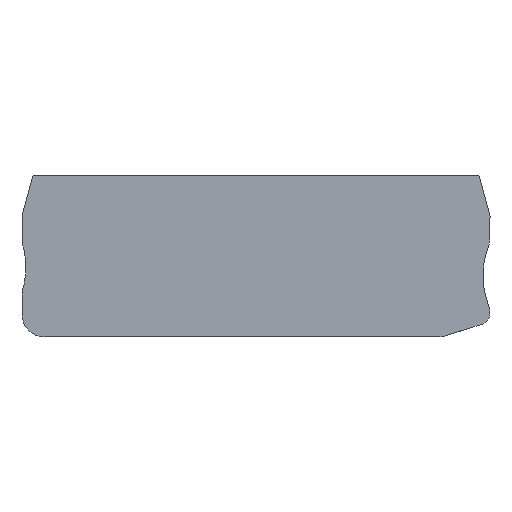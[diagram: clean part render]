
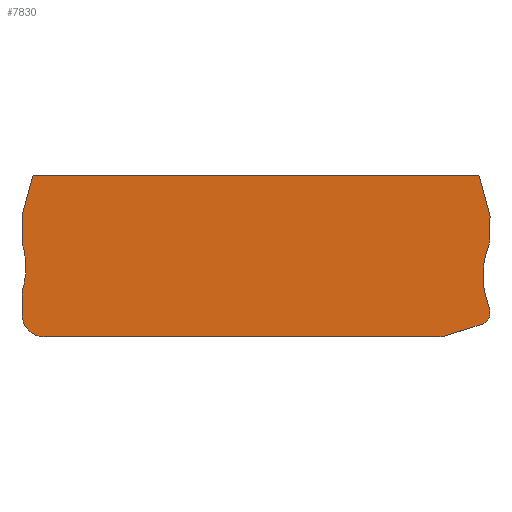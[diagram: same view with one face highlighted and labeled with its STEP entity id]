
A CAD part, top view. The second image highlights one B-rep face of the part: STEP entity #7830.
In plain terms, the highlighted planar face has unit normal (0, 0, 1).
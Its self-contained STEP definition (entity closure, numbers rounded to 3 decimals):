
#200=CARTESIAN_POINT('',(-34.168,-16.531,55.37));
#210=VERTEX_POINT('',#200);
#240=CARTESIAN_POINT('',(-34.168,-12.13,55.37));
#250=DIRECTION('',(0.,-1.,0.));
#260=VECTOR('',#250,1.);
#270=LINE('',#240,#260);
#280=CARTESIAN_POINT('',(-34.168,-20.903,55.37));
#290=VERTEX_POINT('',#280);
#300=EDGE_CURVE('',#210,#290,#270,.T.);
#530=CARTESIAN_POINT('',(40.84,-36.2,55.37));
#540=DIRECTION('',(0.,0.,-1.));
#550=DIRECTION('',(-1.,0.,0.));
#560=AXIS2_PLACEMENT_3D('',#530,#540,#550);
#570=CIRCLE('',#560,2.);
#580=CARTESIAN_POINT('',(41.435,-38.11,55.37));
#590=VERTEX_POINT('',#580);
#600=CARTESIAN_POINT('',(40.84,-38.2,55.37));
#610=VERTEX_POINT('',#600);
#620=EDGE_CURVE('',#590,#610,#570,.T.);
#1160=CARTESIAN_POINT('',(49.832,-20.796,55.37));
#1170=VERTEX_POINT('',#1160);
#1200=CARTESIAN_POINT('',(49.832,-12.13,55.37));
#1210=DIRECTION('',(0.,1.,0.));
#1220=VECTOR('',#1210,1.);
#1230=LINE('',#1200,#1220);
#1240=CARTESIAN_POINT('',(49.832,-16.531,55.37));
#1250=VERTEX_POINT('',#1240);
#1260=EDGE_CURVE('',#1170,#1250,#1230,.T.);
#1490=CARTESIAN_POINT('',(47.832,-33.604,55.37));
#1500=DIRECTION('',(0.,0.,1.));
#1510=DIRECTION('',(1.,0.,0.));
#1520=AXIS2_PLACEMENT_3D('',#1490,#1500,#1510);
#1530=CIRCLE('',#1520,2.);
#1540=CARTESIAN_POINT('',(49.832,-33.604,55.37));
#1550=VERTEX_POINT('',#1540);
#1560=CARTESIAN_POINT('',(49.685,-32.85,55.37));
#1570=VERTEX_POINT('',#1560);
#1580=EDGE_CURVE('',#1550,#1570,#1530,.T.);
#1980=CARTESIAN_POINT('',(47.832,-34.022,55.37));
#1990=DIRECTION('',(0.,0.,1.));
#2000=DIRECTION('',(1.,0.,0.));
#2010=AXIS2_PLACEMENT_3D('',#1980,#1990,#2000);
#2020=CIRCLE('',#2010,2.);
#2030=CARTESIAN_POINT('',(48.427,-35.932,55.37));
#2040=VERTEX_POINT('',#2030);
#2050=CARTESIAN_POINT('',(49.832,-34.022,55.37));
#2060=VERTEX_POINT('',#2050);
#2070=EDGE_CURVE('',#2040,#2060,#2020,.T.);
#4110=CARTESIAN_POINT('',(47.488,-9.65,55.37));
#4120=DIRECTION('',(0.,0.,1.));
#4130=DIRECTION('',(1.,0.,0.));
#4140=AXIS2_PLACEMENT_3D('',#4110,#4120,#4130);
#4150=CIRCLE('',#4140,0.5);
#4160=CARTESIAN_POINT('',(47.971,-9.521,55.37));
#4170=VERTEX_POINT('',#4160);
#4180=CARTESIAN_POINT('',(47.488,-9.15,55.37));
#4190=VERTEX_POINT('',#4180);
#4200=EDGE_CURVE('',#4170,#4190,#4150,.T.);
#4500=CARTESIAN_POINT('',(-31.824,-9.65,55.37));
#4510=DIRECTION('',(0.,0.,1.));
#4520=DIRECTION('',(1.,0.,0.));
#4530=AXIS2_PLACEMENT_3D('',#4500,#4510,#4520);
#4540=CIRCLE('',#4530,0.5);
#4550=CARTESIAN_POINT('',(-31.824,-9.15,55.37));
#4560=VERTEX_POINT('',#4550);
#4570=CARTESIAN_POINT('',(-32.307,-9.521,55.37));
#4580=VERTEX_POINT('',#4570);
#4590=EDGE_CURVE('',#4560,#4580,#4540,.T.);
#4890=CARTESIAN_POINT('',(49.832,-12.13,55.37));
#4900=DIRECTION('',(0.,1.,0.));
#4910=VECTOR('',#4900,1.);
#4920=LINE('',#4890,#4910);
#4930=EDGE_CURVE('',#2060,#1550,#4920,.T.);
#5170=CARTESIAN_POINT('',(-34.168,-34.2,55.37));
#5180=VERTEX_POINT('',#5170);
#5260=CARTESIAN_POINT('',(-34.168,-30.497,55.37));
#5270=VERTEX_POINT('',#5260);
#5300=CARTESIAN_POINT('',(-34.168,-12.13,55.37));
#5310=DIRECTION('',(0.,-1.,0.));
#5320=VECTOR('',#5310,1.);
#5330=LINE('',#5300,#5320);
#5340=EDGE_CURVE('',#5270,#5180,#5330,.T.);
#5560=CARTESIAN_POINT('',(-33.477,-25.7,55.37));
#5570=VERTEX_POINT('',#5560);
#5600=CARTESIAN_POINT('',(-48.477,-25.7,55.37));
#5610=DIRECTION('',(0.,0.,1.));
#5620=DIRECTION('',(1.,0.,0.));
#5630=AXIS2_PLACEMENT_3D('',#5600,#5610,#5620);
#5640=CIRCLE('',#5630,15.);
#5650=CARTESIAN_POINT('',(-34.087,-29.933,55.37));
#5660=VERTEX_POINT('',#5650);
#5670=EDGE_CURVE('',#5660,#5570,#5640,.T.);
#5920=CARTESIAN_POINT('',(-33.006,-12.13,55.37));
#5930=DIRECTION('',(-0.259,-0.966,0.));
#5940=VECTOR('',#5930,1.);
#5950=LINE('',#5920,#5940);
#5960=CARTESIAN_POINT('',(-34.151,-16.402,55.37));
#5970=VERTEX_POINT('',#5960);
#5980=EDGE_CURVE('',#4580,#5970,#5950,.T.);
#6210=CARTESIAN_POINT('',(-32.168,-30.497,55.37));
#6220=DIRECTION('',(0.,0.,1.));
#6230=DIRECTION('',(1.,0.,0.));
#6240=AXIS2_PLACEMENT_3D('',#6210,#6220,#6230);
#6250=CIRCLE('',#6240,2.);
#6260=EDGE_CURVE('',#5660,#5270,#6250,.T.);
#6460=CARTESIAN_POINT('',(-30.168,-34.2,55.37));
#6470=DIRECTION('',(0.,0.,1.));
#6480=DIRECTION('',(1.,0.,0.));
#6490=AXIS2_PLACEMENT_3D('',#6460,#6470,#6480);
#6500=CIRCLE('',#6490,4.);
#6510=CARTESIAN_POINT('',(-30.168,-38.2,55.37));
#6520=VERTEX_POINT('',#6510);
#6530=EDGE_CURVE('',#5180,#6520,#6500,.T.);
#6800=CARTESIAN_POINT('',(11.446,-38.2,55.37));
#6810=DIRECTION('',(1.,0.,0.));
#6820=VECTOR('',#6810,1.);
#6830=LINE('',#6800,#6820);
#6840=EDGE_CURVE('',#6520,#610,#6830,.T.);
#6970=CARTESIAN_POINT('',(35.841,-37.082,55.37));
#6980=DIRECTION('',(0.,0.,-1.));
#6990=DIRECTION('',(-1.,0.,0.));
#7000=AXIS2_PLACEMENT_3D('',#6970,#6980,#6990);
#7010=PLANE('',#7000);
#7020=ORIENTED_EDGE('',*,*,#6530,.T.);
#7030=ORIENTED_EDGE('',*,*,#5340,.T.);
#7040=ORIENTED_EDGE('',*,*,#6260,.T.);
#7050=ORIENTED_EDGE('',*,*,#5670,.F.);
#7060=CARTESIAN_POINT('',(-34.087,-21.467,55.37));
#7070=VERTEX_POINT('',#7060);
#7080=EDGE_CURVE('',#5570,#7070,#5640,.T.);
#7090=ORIENTED_EDGE('',*,*,#7080,.F.);
#7100=CARTESIAN_POINT('',(-32.168,-20.903,55.37));
#7110=DIRECTION('',(0.,0.,1.));
#7120=DIRECTION('',(1.,0.,0.));
#7130=AXIS2_PLACEMENT_3D('',#7100,#7110,#7120);
#7140=CIRCLE('',#7130,2.);
#7150=EDGE_CURVE('',#290,#7070,#7140,.T.);
#7160=ORIENTED_EDGE('',*,*,#7150,.T.);
#7170=ORIENTED_EDGE('',*,*,#300,.T.);
#7180=CARTESIAN_POINT('',(-33.668,-16.531,55.37));
#7190=DIRECTION('',(0.,0.,-1.));
#7200=DIRECTION('',(-1.,0.,0.));
#7210=AXIS2_PLACEMENT_3D('',#7180,#7190,#7200);
#7220=CIRCLE('',#7210,0.5);
#7230=EDGE_CURVE('',#210,#5970,#7220,.T.);
#7240=ORIENTED_EDGE('',*,*,#7230,.F.);
#7250=ORIENTED_EDGE('',*,*,#5980,.T.);
#7260=ORIENTED_EDGE('',*,*,#4590,.T.);
#7270=CARTESIAN_POINT('',(11.446,-9.15,55.37));
#7280=DIRECTION('',(-1.,0.,0.));
#7290=VECTOR('',#7280,1.);
#7300=LINE('',#7270,#7290);
#7310=EDGE_CURVE('',#4190,#4560,#7300,.T.);
#7320=ORIENTED_EDGE('',*,*,#7310,.T.);
#7330=ORIENTED_EDGE('',*,*,#4200,.T.);
#7340=CARTESIAN_POINT('',(48.67,-12.13,55.37));
#7350=DIRECTION('',(-0.259,0.966,0.));
#7360=VECTOR('',#7350,1.);
#7370=LINE('',#7340,#7360);
#7380=CARTESIAN_POINT('',(49.815,-16.402,55.37));
#7390=VERTEX_POINT('',#7380);
#7400=EDGE_CURVE('',#7390,#4170,#7370,.T.);
#7410=ORIENTED_EDGE('',*,*,#7400,.T.);
#7420=CARTESIAN_POINT('',(49.332,-16.531,55.37));
#7430=DIRECTION('',(0.,0.,-1.));
#7440=DIRECTION('',(-1.,0.,0.));
#7450=AXIS2_PLACEMENT_3D('',#7420,#7430,#7440);
#7460=CIRCLE('',#7450,0.5);
#7470=EDGE_CURVE('',#7390,#1250,#7460,.T.);
#7480=ORIENTED_EDGE('',*,*,#7470,.F.);
#7490=ORIENTED_EDGE('',*,*,#1260,.T.);
#7500=CARTESIAN_POINT('',(47.832,-20.796,55.37));
#7510=DIRECTION('',(0.,0.,1.));
#7520=DIRECTION('',(1.,0.,0.));
#7530=AXIS2_PLACEMENT_3D('',#7500,#7510,#7520);
#7540=CIRCLE('',#7530,2.);
#7550=CARTESIAN_POINT('',(49.685,-21.55,55.37));
#7560=VERTEX_POINT('',#7550);
#7570=EDGE_CURVE('',#7560,#1170,#7540,.T.);
#7580=ORIENTED_EDGE('',*,*,#7570,.T.);
#7590=CARTESIAN_POINT('',(63.58,-27.2,55.37));
#7600=DIRECTION('',(0.,0.,1.));
#7610=DIRECTION('',(1.,0.,0.));
#7620=AXIS2_PLACEMENT_3D('',#7590,#7600,#7610);
#7630=CIRCLE('',#7620,15.);
#7640=CARTESIAN_POINT('',(48.58,-27.2,55.37));
#7650=VERTEX_POINT('',#7640);
#7660=EDGE_CURVE('',#7560,#7650,#7630,.T.);
#7670=ORIENTED_EDGE('',*,*,#7660,.F.);
#7680=EDGE_CURVE('',#7650,#1570,#7630,.T.);
#7690=ORIENTED_EDGE('',*,*,#7680,.F.);
#7700=ORIENTED_EDGE('',*,*,#1580,.T.);
#7710=ORIENTED_EDGE('',*,*,#4930,.T.);
#7720=ORIENTED_EDGE('',*,*,#2070,.T.);
#7730=CARTESIAN_POINT('',(11.446,-47.449,55.37));
#7740=DIRECTION('',(-0.955,-0.297,0.));
#7750=VECTOR('',#7740,1.);
#7760=LINE('',#7730,#7750);
#7770=EDGE_CURVE('',#2040,#590,#7760,.T.);
#7780=ORIENTED_EDGE('',*,*,#7770,.F.);
#7790=ORIENTED_EDGE('',*,*,#620,.F.);
#7800=ORIENTED_EDGE('',*,*,#6840,.T.);
#7810=EDGE_LOOP('',(#7800,#7790,#7780,#7720,#7710,#7700,#7690,#7670,
#7580,#7490,#7480,#7410,#7330,#7320,#7260,#7250,#7240,#7170,#7160,#7090,
#7050,#7040,#7030,#7020));
#7820=FACE_OUTER_BOUND('',#7810,.T.);
#7830=ADVANCED_FACE('',(#7820),#7010,.F.);
